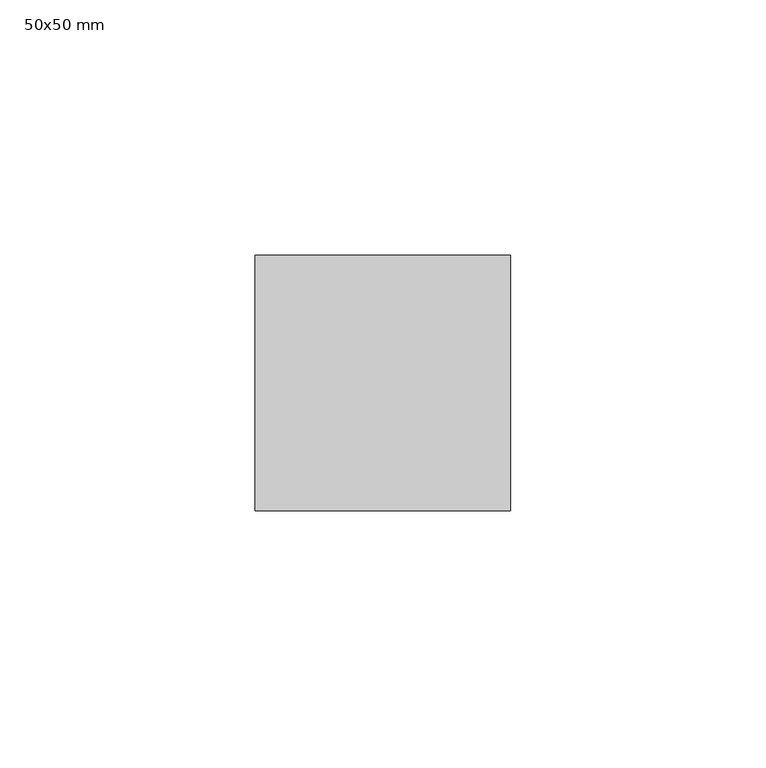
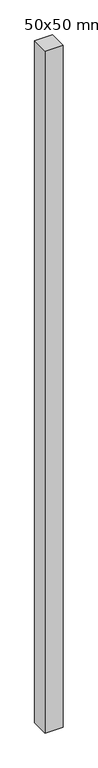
"""IFC4 building model written with IfcOpenShell, lengths in millimetres: member geometry, Obdélníková příčel : 50x50 mm."""

from ifc_helpers import new_model, si_unit, frame, origin, place, context, project, spatial, polyline, outline, extrude, source, transform, mapped, element, save


def member_50x50_mm_3bf2a5da(model_context):
    return source(origin(), model_context, "Body", "SweptSolid", [
        extrude(outline(polyline([(25.0, 25.0), (25.0, -25.0), (-25.0, -25.0), (-25.0, 25.0), (25.0, 25.0)])), frame((0.0, 0.0, -2000.0), z_axis=(0.0, 0.0, 1.0), x_axis=(1.0, 0.0, 0.0)), (0.0, 0.0, 1.0), 2000.0),
    ])


if __name__ == "__main__":
    model = new_model("IFC4")
    model_context = context("Model", 3, world=origin())
    ifc_project = project(units=[si_unit("LENGTHUNIT", "METRE", prefix="MILLI")], contexts=[model_context])
    site = spatial("IfcSite", under=ifc_project)
    building = spatial("IfcBuilding", under=site)
    placement = place(None, origin())
    member_50x50_mm_shape = member_50x50_mm_3bf2a5da(model_context)
    element("IfcMember", 1, ObjectType="Obdélníková příčel : 50x50 mm", at=placement, inside=building, context=model_context, shape_type="MappedRepresentation", body=[
        mapped(member_50x50_mm_shape, transform((0.0, 0.0, 0.0), x_axis=(1.0, 0.0, 0.0), y_axis=(0.0, 1.0, 0.0), z_axis=(0.0, 0.0, 1.0))),
    ])
    save(model, "model.ifc")
